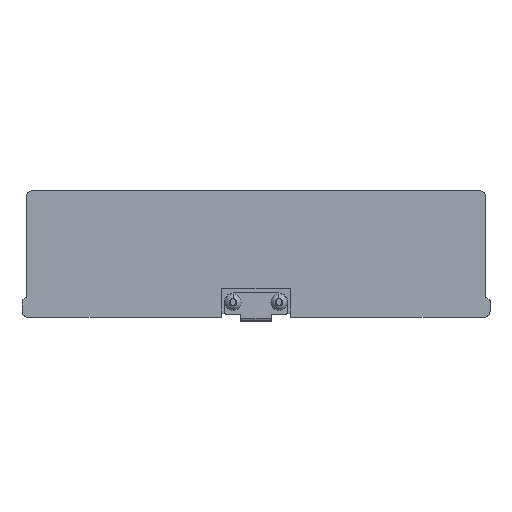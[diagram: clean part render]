
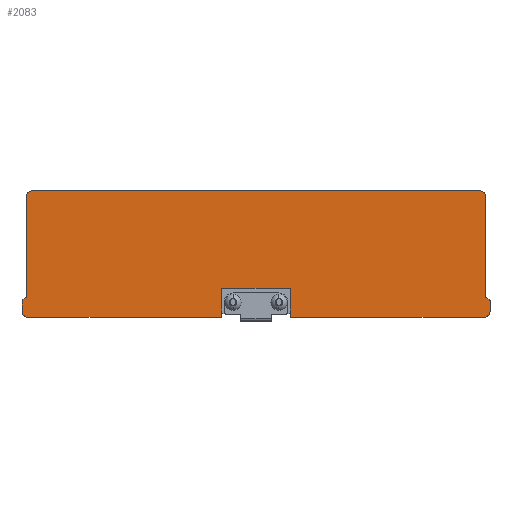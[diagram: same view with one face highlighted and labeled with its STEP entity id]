
A CAD part, top view. The second image highlights one B-rep face of the part: STEP entity #2083.
In plain terms, the highlighted planar face has unit normal (0, 0, 1).
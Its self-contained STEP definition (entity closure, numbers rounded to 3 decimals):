
#438=DIRECTION('',(0.,-1.,0.));
#439=VECTOR('',#438,10.);
#440=CARTESIAN_POINT('',(-12.,-12.,3.));
#441=LINE('',#440,#439);
#458=DIRECTION('',(-1.,0.,0.));
#459=VECTOR('',#458,67.5);
#460=CARTESIAN_POINT('',(-12.,-22.,3.));
#461=LINE('',#460,#459);
#626=CARTESIAN_POINT('',(-79.5,-20.,3.));
#627=DIRECTION('',(0.,0.,1.));
#628=DIRECTION('',(-1.,0.,0.));
#629=AXIS2_PLACEMENT_3D('',#626,#627,#628);
#631=CARTESIAN_POINT('',(-81.,-16.289,3.));
#632=DIRECTION('',(0.,0.,1.));
#633=DIRECTION('',(-0.5,0.866,0.));
#634=AXIS2_PLACEMENT_3D('',#631,#632,#633);
#636=DIRECTION('',(-0.866,-0.5,0.));
#637=VECTOR('',#636,1.155);
#638=CARTESIAN_POINT('',(-80.25,-15.278,3.));
#639=LINE('',#638,#637);
#640=CARTESIAN_POINT('',(-80.5,-14.845,3.));
#641=DIRECTION('',(0.,0.,-1.));
#642=DIRECTION('',(1.,0.,0.));
#643=AXIS2_PLACEMENT_3D('',#640,#641,#642);
#645=DIRECTION('',(0.,-1.,0.));
#646=VECTOR('',#645,34.845);
#647=CARTESIAN_POINT('',(-80.,20.,3.));
#648=LINE('',#647,#646);
#649=CARTESIAN_POINT('',(-78.,20.,3.));
#650=DIRECTION('',(0.,0.,1.));
#651=DIRECTION('',(0.,1.,0.));
#652=AXIS2_PLACEMENT_3D('',#649,#650,#651);
#654=CARTESIAN_POINT('',(78.,20.,3.));
#655=DIRECTION('',(0.,0.,1.));
#656=DIRECTION('',(1.,0.,0.));
#657=AXIS2_PLACEMENT_3D('',#654,#655,#656);
#659=CARTESIAN_POINT('',(80.5,-14.842,3.));
#660=DIRECTION('',(0.,0.,-1.));
#661=DIRECTION('',(-0.502,-0.865,0.));
#662=AXIS2_PLACEMENT_3D('',#659,#660,#661);
#664=DIRECTION('',(-0.865,0.502,0.));
#665=VECTOR('',#664,1.158);
#666=CARTESIAN_POINT('',(81.251,-15.855,3.));
#667=LINE('',#666,#665);
#668=CARTESIAN_POINT('',(81.,-16.288,3.));
#669=DIRECTION('',(0.,0.,1.));
#670=DIRECTION('',(1.,0.,0.));
#671=AXIS2_PLACEMENT_3D('',#668,#669,#670);
#673=CARTESIAN_POINT('',(79.5,-20.,3.));
#674=DIRECTION('',(0.,0.,1.));
#675=DIRECTION('',(0.,-1.,0.));
#676=AXIS2_PLACEMENT_3D('',#673,#674,#675);
#678=DIRECTION('',(-1.,0.,0.));
#679=VECTOR('',#678,67.5);
#680=CARTESIAN_POINT('',(79.5,-22.,3.));
#681=LINE('',#680,#679);
#698=DIRECTION('',(0.,-1.,0.));
#699=VECTOR('',#698,3.712);
#700=CARTESIAN_POINT('',(81.5,-16.288,3.));
#701=LINE('',#700,#699);
#726=DIRECTION('',(0.,-1.,0.));
#727=VECTOR('',#726,34.842);
#728=CARTESIAN_POINT('',(80.,20.,3.));
#729=LINE('',#728,#727);
#738=DIRECTION('',(1.,0.,0.));
#739=VECTOR('',#738,156.);
#740=CARTESIAN_POINT('',(-78.,22.,3.));
#741=LINE('',#740,#739);
#770=DIRECTION('',(0.,1.,0.));
#771=VECTOR('',#770,10.);
#772=CARTESIAN_POINT('',(12.,-22.,3.));
#773=LINE('',#772,#771);
#778=DIRECTION('',(-1.,0.,0.));
#779=VECTOR('',#778,24.);
#780=CARTESIAN_POINT('',(12.,-12.,3.));
#781=LINE('',#780,#779);
#802=DIRECTION('',(0.,1.,0.));
#803=VECTOR('',#802,3.711);
#804=CARTESIAN_POINT('',(-81.5,-20.,3.));
#805=LINE('',#804,#803);
#967=CARTESIAN_POINT('',(-81.25,-15.856,3.));
#968=VERTEX_POINT('',#967);
#969=CARTESIAN_POINT('',(-81.5,-16.289,3.));
#970=VERTEX_POINT('',#969);
#971=CARTESIAN_POINT('',(-80.25,-15.278,3.));
#972=VERTEX_POINT('',#971);
#973=CARTESIAN_POINT('',(-80.,-14.845,3.));
#974=VERTEX_POINT('',#973);
#975=CARTESIAN_POINT('',(-80.,20.,3.));
#976=VERTEX_POINT('',#975);
#977=CARTESIAN_POINT('',(-78.,22.,3.));
#978=VERTEX_POINT('',#977);
#979=CARTESIAN_POINT('',(12.,-22.,3.));
#980=CARTESIAN_POINT('',(12.,-12.,3.));
#981=VERTEX_POINT('',#979);
#982=VERTEX_POINT('',#980);
#983=CARTESIAN_POINT('',(-12.,-12.,3.));
#984=VERTEX_POINT('',#983);
#985=CARTESIAN_POINT('',(-12.,-22.,3.));
#986=VERTEX_POINT('',#985);
#987=CARTESIAN_POINT('',(-79.5,-22.,3.));
#988=VERTEX_POINT('',#987);
#989=CARTESIAN_POINT('',(-81.5,-20.,3.));
#990=VERTEX_POINT('',#989);
#991=CARTESIAN_POINT('',(78.,22.,3.));
#992=VERTEX_POINT('',#991);
#993=CARTESIAN_POINT('',(80.,20.,3.));
#994=VERTEX_POINT('',#993);
#995=CARTESIAN_POINT('',(80.,-14.842,3.));
#996=VERTEX_POINT('',#995);
#997=CARTESIAN_POINT('',(80.249,-15.275,3.));
#998=VERTEX_POINT('',#997);
#999=CARTESIAN_POINT('',(81.251,-15.855,3.));
#1000=VERTEX_POINT('',#999);
#1001=CARTESIAN_POINT('',(81.5,-16.288,3.));
#1002=VERTEX_POINT('',#1001);
#1003=CARTESIAN_POINT('',(81.5,-20.,3.));
#1004=VERTEX_POINT('',#1003);
#1005=CARTESIAN_POINT('',(79.5,-22.,3.));
#1006=VERTEX_POINT('',#1005);
#2039=CARTESIAN_POINT('',(0.,0.,3.));
#2040=DIRECTION('',(0.,0.,1.));
#2041=DIRECTION('',(1.,0.,0.));
#2042=AXIS2_PLACEMENT_3D('',#2039,#2040,#2041);
#2043=PLANE('',#2042);
#2045=ORIENTED_EDGE('',*,*,#2044,.T.);
#2047=ORIENTED_EDGE('',*,*,#2046,.T.);
#2049=ORIENTED_EDGE('',*,*,#2048,.T.);
#2050=ORIENTED_EDGE('',*,*,#1797,.T.);
#2051=ORIENTED_EDGE('',*,*,#1817,.T.);
#2053=ORIENTED_EDGE('',*,*,#2052,.F.);
#2055=ORIENTED_EDGE('',*,*,#2054,.T.);
#2057=ORIENTED_EDGE('',*,*,#2056,.F.);
#2058=ORIENTED_EDGE('',*,*,#2029,.F.);
#2060=ORIENTED_EDGE('',*,*,#2059,.F.);
#2062=ORIENTED_EDGE('',*,*,#2061,.F.);
#2064=ORIENTED_EDGE('',*,*,#2063,.F.);
#2066=ORIENTED_EDGE('',*,*,#2065,.T.);
#2068=ORIENTED_EDGE('',*,*,#2067,.F.);
#2070=ORIENTED_EDGE('',*,*,#2069,.T.);
#2072=ORIENTED_EDGE('',*,*,#2071,.F.);
#2074=ORIENTED_EDGE('',*,*,#2073,.F.);
#2076=ORIENTED_EDGE('',*,*,#2075,.F.);
#2078=ORIENTED_EDGE('',*,*,#2077,.T.);
#2080=ORIENTED_EDGE('',*,*,#2079,.F.);
#2081=EDGE_LOOP('',(#2045,#2047,#2049,#2050,#2051,#2053,#2055,#2057,#2058,#2060,
#2062,#2064,#2066,#2068,#2070,#2072,#2074,#2076,#2078,#2080));
#2082=FACE_OUTER_BOUND('',#2081,.F.);
#2083=ADVANCED_FACE('',(#2082),#2043,.T.);
#630=CIRCLE('',#629,2.);
#635=CIRCLE('',#634,0.5);
#644=CIRCLE('',#643,0.5);
#653=CIRCLE('',#652,2.);
#658=CIRCLE('',#657,2.);
#663=CIRCLE('',#662,0.5);
#672=CIRCLE('',#671,0.5);
#677=CIRCLE('',#676,2.);
#1797=EDGE_CURVE('',#984,#986,#441,.T.);
#1817=EDGE_CURVE('',#986,#988,#461,.T.);
#2029=EDGE_CURVE('',#972,#968,#639,.T.);
#2044=EDGE_CURVE('',#1006,#981,#681,.T.);
#2046=EDGE_CURVE('',#981,#982,#773,.T.);
#2048=EDGE_CURVE('',#982,#984,#781,.T.);
#2052=EDGE_CURVE('',#990,#988,#630,.T.);
#2054=EDGE_CURVE('',#990,#970,#805,.T.);
#2056=EDGE_CURVE('',#968,#970,#635,.T.);
#2059=EDGE_CURVE('',#974,#972,#644,.T.);
#2061=EDGE_CURVE('',#976,#974,#648,.T.);
#2063=EDGE_CURVE('',#978,#976,#653,.T.);
#2065=EDGE_CURVE('',#978,#992,#741,.T.);
#2067=EDGE_CURVE('',#994,#992,#658,.T.);
#2069=EDGE_CURVE('',#994,#996,#729,.T.);
#2071=EDGE_CURVE('',#998,#996,#663,.T.);
#2073=EDGE_CURVE('',#1000,#998,#667,.T.);
#2075=EDGE_CURVE('',#1002,#1000,#672,.T.);
#2077=EDGE_CURVE('',#1002,#1004,#701,.T.);
#2079=EDGE_CURVE('',#1006,#1004,#677,.T.);
